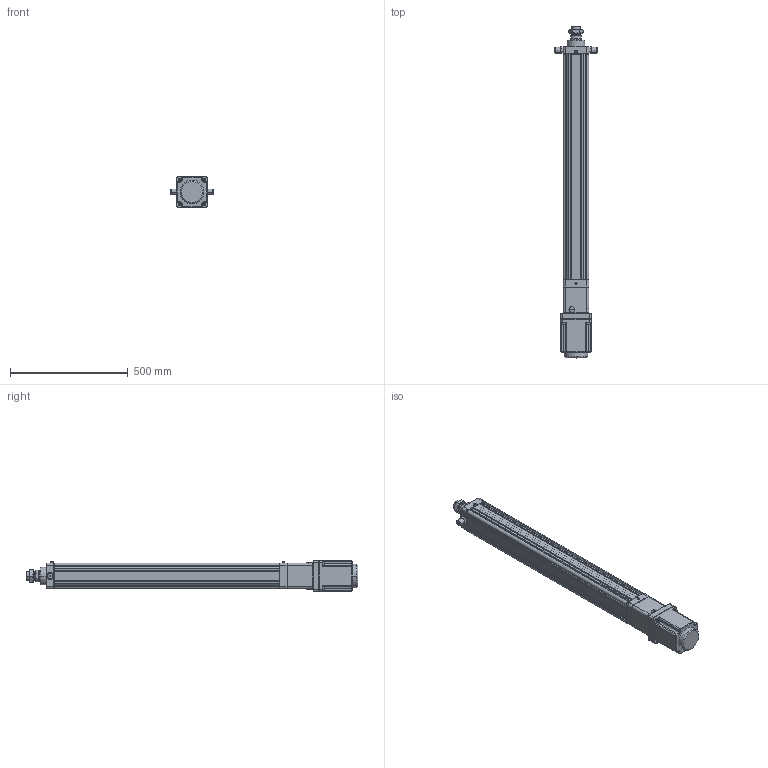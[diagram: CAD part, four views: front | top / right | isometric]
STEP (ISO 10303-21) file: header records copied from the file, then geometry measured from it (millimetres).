
FILE_DESCRIPTION((''),'2;1');
FILE_NAME('HE100-D-P_ASM','2020-05-11T',('ASUS20200'),(''),'CREO PARAMETRIC BY PTC INC, 2014190','CREO PARAMETRIC BY PTC INC, 2014190','');
FILE_SCHEMA(('CONFIG_CONTROL_DESIGN'));
Length unit declared in the file: millimetre
Products named in the file (21): HE100-D-P-001-X1; HE100-D-P-002-X1; HE100-D-P-003-X1; 30305J; JDB506030; SLM-01; YZ-M6X1; HE100-100-D-P-X1_ASM; HE100-D-009-X1; HE100-D-010-X1-130N; M8X20; 130ST-M10010; TD-8; M8X40; SKT-20; HE100-D-P-005-X1; HE100-D-P-004-X1; HE80-D-P-008-X1; LGLM-M10-25; HE100-TC; HE100-D-P_ASM
Assembly tree (35 placements, depth 3):
  HE100-D-P_ASM
    HE100-100-D-P-X1_ASM
      HE100-D-P-001-X1
      HE100-D-P-002-X1
      HE100-D-P-003-X1
      30305J  x2
      JDB506030
      SLM-01
      YZ-M6X1
    HE100-D-009-X1
    HE100-D-010-X1-130N
    M8X20  x4
    130ST-M10010
    TD-8  x4
    M8X40  x4
    SKT-20  x2
    HE100-D-P-005-X1
    HE100-D-P-004-X1
    HE80-D-P-008-X1
    LGLM-M10-25  x4
    HE100-TC  x2
Bounding box: 180 x 1411 x 130 mm (x, y, z)
Volume: 7460791.5 mm3; surface area: 1760919.3 mm2
Topology: 34 solids, 59 shells, 1858 faces, 4345 edges, 2614 vertices
Faces by surface type: plane 657, cylinder 547, cone 538, torus 82, sphere 30, bspline 4
Entity records: 43972 total; most frequent: CARTESIAN_POINT 8762, DIRECTION 7726, ORIENTED_EDGE 6820, EDGE_CURVE 3463, AXIS2_PLACEMENT_3D 2959, VERTEX_POINT 2095, VECTOR 1808, LINE 1808
